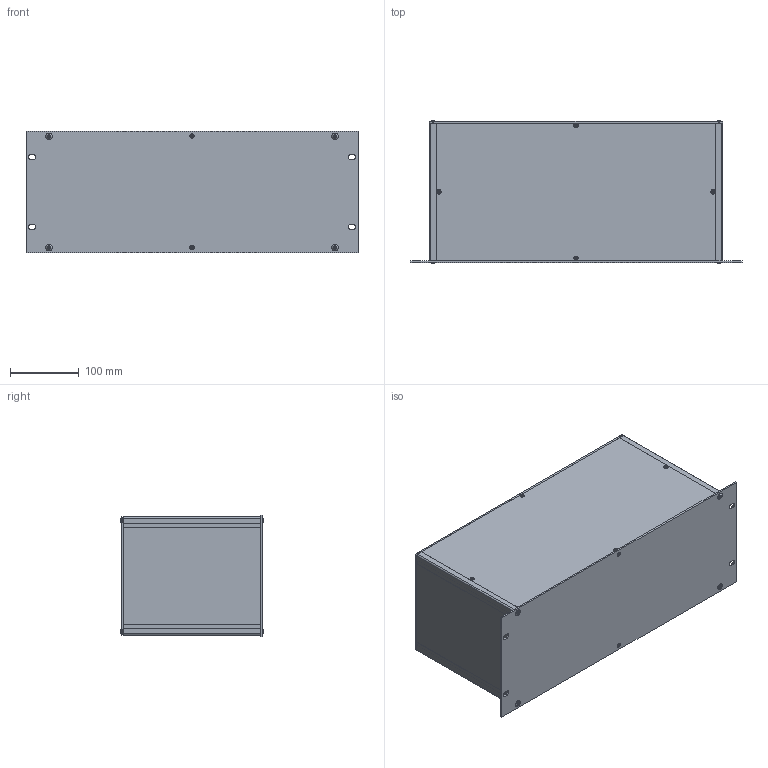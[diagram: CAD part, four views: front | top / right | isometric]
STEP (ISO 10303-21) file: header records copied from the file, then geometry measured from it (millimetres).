
FILE_DESCRIPTION(/* description */ (''),/* implementation_level */ '2;1');
FILE_NAME(/* name */ '//diskstation/Kunden/Gehäuse/Gehäuse/4HE/step/19 Zoll 3HE Rack Gehäuse Tiefe-200.step',/* time_stamp */ '2022-02-17T16:06:59+01:00',/* author */ (''),/* organization */ (''),/* preprocessor_version */ 'ST-DEVELOPER v18.1',/* originating_system */ 'Autodesk Translation Framework v10.10.0.1391',/* authorisation */ '');
FILE_SCHEMA (('AUTOMOTIVE_DESIGN { 1 0 10303 214 3 1 1 }'));
Length unit declared in the file: millimetre
Products named in the file (28): 4HE Gehäuse mit parametern; Gehäuse; Gehäuseprofil 1 unten links; Gehäuseprofil 2 oben rechts; Gehäuseprofil 1 unten rechts; Gehäuseprofil 2 oben links; Rückplatte; Deckel; Seitenteil links; Seitenteil rechts; Bodenplatte; Montageklotz Front/Deckel; Montageklotz Front/Boden; Montageklotz Rück/Deckel; Montageklotz Rück/Boden; Gewindestreifen; Frontplatte; Schrauben M5; Schraube Front; Schraube Front (1); Schraube Front (2); Schraube Front (3); Schraube Rück (1); Schraube Rück; Schraube Rück (2); Schraube Rück (3); Schrauben M3; HI_Senkschraube DIN 965 A v2 M3x5 24677.030.005(High)
Assembly tree (37 placements, depth 3):
  4HE Gehäuse mit parametern
    Gehäuse
      Gehäuseprofil 1 unten links
      Gehäuseprofil 2 oben rechts
      Gehäuseprofil 1 unten rechts
      Gehäuseprofil 2 oben links
      Rückplatte
      Deckel
      Seitenteil links
      Seitenteil rechts
      Bodenplatte
      Montageklotz Front/Deckel
      Montageklotz Front/Boden
      Montageklotz Rück/Deckel
      Montageklotz Rück/Boden
      Gewindestreifen  x2
    Frontplatte
    Schrauben M5
      Schraube Front
      Schraube Front (1)
      Schraube Front (2)
      Schraube Front (3)
      Schraube Rück (1)
      Schraube Rück
      Schraube Rück (2)
      Schraube Rück (3)
    Schrauben M3
      HI_Senkschraube DIN 965 A v2 M3x5 24677.030.005(High)  x10
Bounding box: 483 x 208.2 x 177 mm (x, y, z)
Volume: 996522.7 mm3; surface area: 865134.7 mm2
Topology: 34 solids, 34 shells, 834 faces, 2016 edges, 1250 vertices
Faces by surface type: plane 342, cylinder 312, cone 164, torus 8, bspline 8
Full cylindrical faces by diameter (mm): 2.529 x70, 3 x10, 3.2 x10, 4.234 x40, 5 x8, 5.2 x4, 5.3 x8, 5.6 x10, 9.5 x8
Entity records: 16455 total; most frequent: CARTESIAN_POINT 3018, DIRECTION 2750, ORIENTED_EDGE 2430, EDGE_CURVE 1215, AXIS2_PLACEMENT_3D 1030, VERTEX_POINT 758, EDGE_LOOP 701, LINE 690
